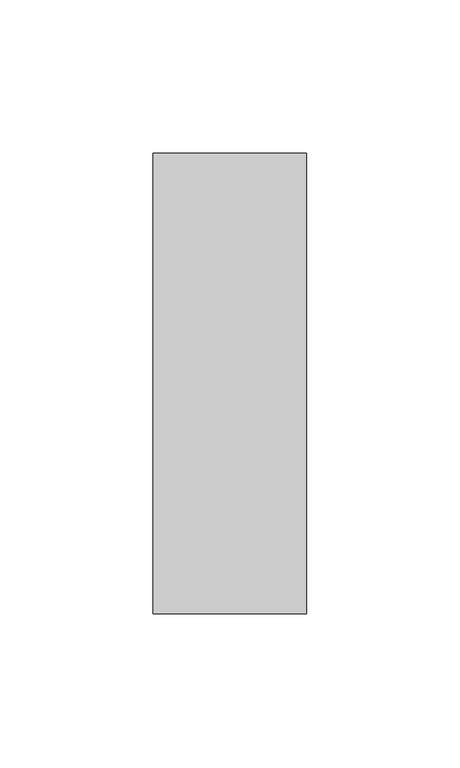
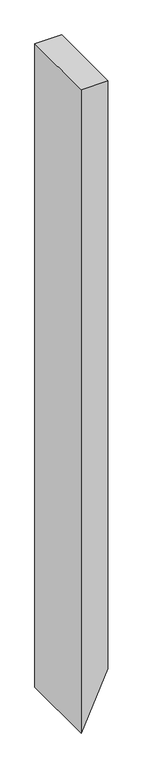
"""IFC4 building model written with IfcOpenShell, lengths in millimetres: member geometry, Прямоугольный импост : 50 x 150 мм."""

from ifc_helpers import new_model, si_unit, frame, origin, place, context, project, spatial, polyline, outline, extrude, source, transform, mapped, element, save


def member_7f387693(model_context):
    return source(origin(), model_context, "Body", "SweptSolid", [
        extrude(outline(polyline([(0.0, 25.0), (0.0, -25.0), (-1276.5617542, -25.0), (-1166.1843957, 25.0), (0.0, 25.0)])), frame((0.0, -75.0, 0.0), z_axis=(0.0, 1.0, 0.0), x_axis=(0.0, 0.0, 1.0)), (0.0, 0.0, 1.0), 150.0),
    ])


if __name__ == "__main__":
    model = new_model("IFC4")
    model_context = context("Model", 3, world=origin())
    ifc_project = project(units=[si_unit("LENGTHUNIT", "METRE", prefix="MILLI")], contexts=[model_context])
    site = spatial("IfcSite", under=ifc_project)
    building = spatial("IfcBuilding", under=site)
    placement = place(None, origin())
    member_shape = member_7f387693(model_context)
    element("IfcMember", 1, ObjectType="Прямоугольный импост : 50 x 150 мм", at=placement, inside=building, context=model_context, shape_type="MappedRepresentation", body=[
        mapped(member_shape, transform((0.0, 0.0, 0.0), x_axis=(1.0, 0.0, 0.0), y_axis=(0.0, 1.0, 0.0), z_axis=(0.0, 0.0, 1.0))),
    ])
    save(model, "model.ifc")
